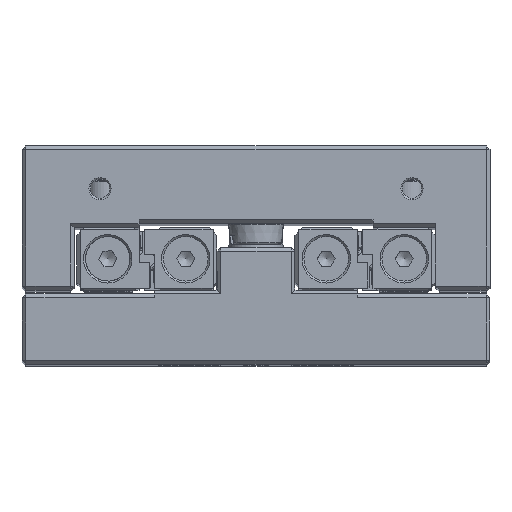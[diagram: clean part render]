
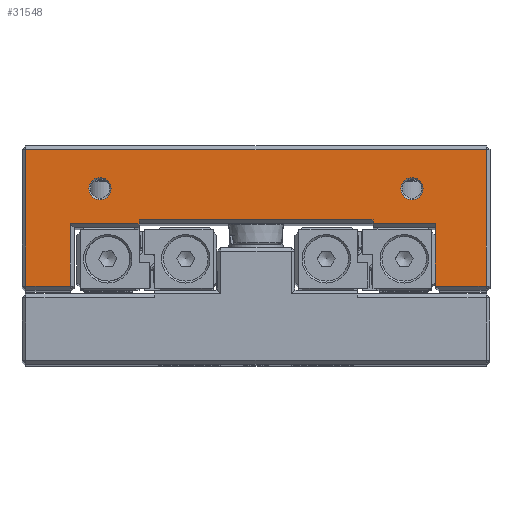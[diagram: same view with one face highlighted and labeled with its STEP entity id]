
A CAD part, top view. The second image highlights one B-rep face of the part: STEP entity #31548.
In plain terms, the highlighted planar face has unit normal (0, 0, 1).
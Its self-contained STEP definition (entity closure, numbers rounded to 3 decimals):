
#1100=FACE_BOUND('',#5419,.T.);
#1101=FACE_BOUND('',#5420,.T.);
#2035=PLANE('',#33955);
#3508=FACE_OUTER_BOUND('',#5418,.T.);
#5418=EDGE_LOOP('',(#24909,#24910,#24911,#24912,#24913,#24914,#24915,#24916,
#24917,#24918,#24919,#24920));
#5419=EDGE_LOOP('',(#24921));
#5420=EDGE_LOOP('',(#24922));
#6781=CIRCLE('',#33780,1.43);
#6784=CIRCLE('',#33785,1.43);
#8362=LINE('',#48247,#11004);
#8366=LINE('',#48256,#11008);
#8656=LINE('',#49668,#11298);
#8667=LINE('',#49692,#11309);
#8671=LINE('',#49698,#11313);
#8674=LINE('',#49703,#11316);
#8680=LINE('',#49713,#11322);
#8688=LINE('',#49727,#11330);
#8691=LINE('',#49731,#11333);
#8715=LINE('',#49783,#11357);
#8722=LINE('',#49796,#11364);
#8731=LINE('',#49814,#11373);
#11004=VECTOR('',#38557,10.);
#11008=VECTOR('',#38563,10.);
#11298=VECTOR('',#39525,10.);
#11309=VECTOR('',#39540,10.);
#11313=VECTOR('',#39546,10.);
#11316=VECTOR('',#39551,10.);
#11322=VECTOR('',#39561,10.);
#11330=VECTOR('',#39575,10.);
#11333=VECTOR('',#39580,10.);
#11357=VECTOR('',#39650,10.);
#11364=VECTOR('',#39661,10.);
#11373=VECTOR('',#39680,10.);
#13838=VERTEX_POINT('',#48244);
#13839=VERTEX_POINT('',#48246);
#13841=VERTEX_POINT('',#48252);
#13843=VERTEX_POINT('',#48255);
#13974=VERTEX_POINT('',#48658);
#13977=VERTEX_POINT('',#48668);
#14192=VERTEX_POINT('',#49665);
#14193=VERTEX_POINT('',#49667);
#14203=VERTEX_POINT('',#49690);
#14204=VERTEX_POINT('',#49691);
#14205=VERTEX_POINT('',#49697);
#14206=VERTEX_POINT('',#49702);
#14208=VERTEX_POINT('',#49712);
#14211=VERTEX_POINT('',#49725);
#17410=EDGE_CURVE('',#13839,#13838,#8362,.T.);
#17414=EDGE_CURVE('',#13843,#13841,#8366,.T.);
#17608=EDGE_CURVE('',#13974,#13974,#6781,.T.);
#17613=EDGE_CURVE('',#13977,#13977,#6784,.T.);
#17927=EDGE_CURVE('',#14193,#14192,#8656,.T.);
#17938=EDGE_CURVE('',#14203,#14204,#8667,.T.);
#17942=EDGE_CURVE('',#14204,#14205,#8671,.T.);
#17945=EDGE_CURVE('',#14205,#14206,#8674,.T.);
#17951=EDGE_CURVE('',#14206,#14208,#8680,.T.);
#17959=EDGE_CURVE('',#14211,#14192,#8688,.T.);
#17962=EDGE_CURVE('',#14208,#14211,#8691,.T.);
#17988=EDGE_CURVE('',#13843,#13838,#8715,.T.);
#17995=EDGE_CURVE('',#13839,#14203,#8722,.T.);
#18004=EDGE_CURVE('',#14193,#13841,#8731,.T.);
#24909=ORIENTED_EDGE('',*,*,#18004,.F.);
#24910=ORIENTED_EDGE('',*,*,#17927,.T.);
#24911=ORIENTED_EDGE('',*,*,#17959,.F.);
#24912=ORIENTED_EDGE('',*,*,#17962,.F.);
#24913=ORIENTED_EDGE('',*,*,#17951,.F.);
#24914=ORIENTED_EDGE('',*,*,#17945,.F.);
#24915=ORIENTED_EDGE('',*,*,#17942,.F.);
#24916=ORIENTED_EDGE('',*,*,#17938,.F.);
#24917=ORIENTED_EDGE('',*,*,#17995,.F.);
#24918=ORIENTED_EDGE('',*,*,#17410,.T.);
#24919=ORIENTED_EDGE('',*,*,#17988,.F.);
#24920=ORIENTED_EDGE('',*,*,#17414,.T.);
#24921=ORIENTED_EDGE('',*,*,#17608,.F.);
#24922=ORIENTED_EDGE('',*,*,#17613,.F.);
#31548=ADVANCED_FACE('',(#3508,#1100,#1101),#2035,.T.);
#33780=AXIS2_PLACEMENT_3D('',#48660,#39036,#39037);
#33785=AXIS2_PLACEMENT_3D('',#48670,#39048,#39049);
#33955=AXIS2_PLACEMENT_3D('',#49813,#39678,#39679);
#38557=DIRECTION('',(0.,1.,0.));
#38563=DIRECTION('',(0.,-1.,0.));
#39036=DIRECTION('center_axis',(0.,0.,
1.));
#39037=DIRECTION('ref_axis',(-1.,0.,0.));
#39048=DIRECTION('center_axis',(0.,0.,
1.));
#39049=DIRECTION('ref_axis',(-1.,0.,0.));
#39525=DIRECTION('',(0.,-1.,0.));
#39540=DIRECTION('',(0.,-1.,0.));
#39546=DIRECTION('',(-1.,0.,0.));
#39551=DIRECTION('',(0.,1.,0.));
#39561=DIRECTION('',(1.,0.,0.));
#39575=DIRECTION('',(-1.,0.,0.));
#39580=DIRECTION('',(0.,-1.,0.));
#39650=DIRECTION('',(-1.,0.,0.));
#39661=DIRECTION('',(-1.,0.,0.));
#39678=DIRECTION('center_axis',(0.,0.,
1.));
#39679=DIRECTION('ref_axis',(1.,0.,0.));
#39680=DIRECTION('',(-1.,0.,0.));
#48244=CARTESIAN_POINT('',(-9.614,-6.007,64.122));
#48246=CARTESIAN_POINT('',(-9.614,-6.507,64.122));
#48247=CARTESIAN_POINT('',(-9.614,-6.507,64.122));
#48252=CARTESIAN_POINT('',(20.386,-6.507,64.122));
#48255=CARTESIAN_POINT('',(20.386,-6.007,64.122));
#48256=CARTESIAN_POINT('',(20.386,-7.007,64.122));
#48658=CARTESIAN_POINT('',(-13.185,-2.007,64.122));
#48660=CARTESIAN_POINT('Origin',(-14.614,-2.007,64.122));
#48668=CARTESIAN_POINT('',(26.815,-2.007,64.122));
#48670=CARTESIAN_POINT('Origin',(25.386,-2.007,64.122));
#49665=CARTESIAN_POINT('',(28.386,-14.507,64.122));
#49667=CARTESIAN_POINT('',(28.386,-6.507,64.122));
#49668=CARTESIAN_POINT('',(28.386,-15.007,64.122));
#49690=CARTESIAN_POINT('',(-18.414,-6.507,64.122));
#49691=CARTESIAN_POINT('',(-18.414,-14.507,64.122));
#49692=CARTESIAN_POINT('',(-18.414,-10.382,64.122));
#49697=CARTESIAN_POINT('',(-24.114,-14.507,64.122));
#49698=CARTESIAN_POINT('',(-9.614,-14.507,64.122));
#49702=CARTESIAN_POINT('',(-24.114,2.993,64.122));
#49703=CARTESIAN_POINT('',(-24.114,-1.132,64.122));
#49712=CARTESIAN_POINT('',(34.886,2.993,64.122));
#49713=CARTESIAN_POINT('',(20.386,2.993,64.122));
#49725=CARTESIAN_POINT('',(34.886,-14.507,64.122));
#49727=CARTESIAN_POINT('',(16.886,-14.507,64.122));
#49731=CARTESIAN_POINT('',(34.886,-10.382,64.122));
#49783=CARTESIAN_POINT('',(-2.114,-6.007,64.122));
#49796=CARTESIAN_POINT('',(-6.264,-6.507,64.122));
#49813=CARTESIAN_POINT('Origin',(5.386,-5.757,64.122));
#49814=CARTESIAN_POINT('',(12.886,-6.507,64.122));
